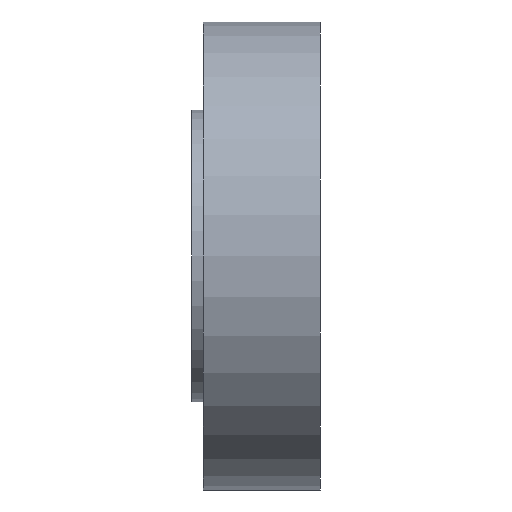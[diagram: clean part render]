
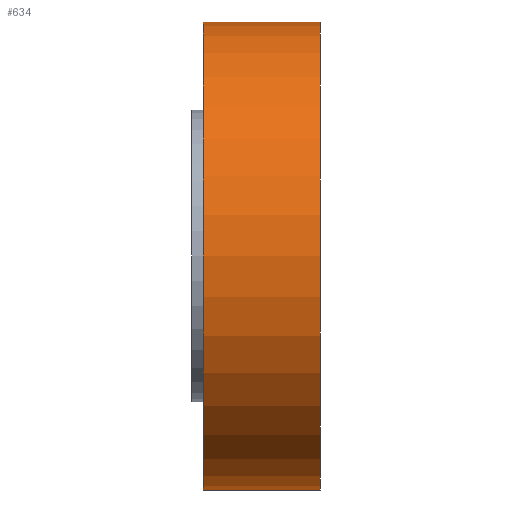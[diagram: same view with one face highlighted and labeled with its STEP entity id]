
A CAD part, front view. The second image highlights one B-rep face of the part: STEP entity #634.
In plain terms, the highlighted cylindrical face has radius 40 mm (diameter 80 mm), a partial arc.
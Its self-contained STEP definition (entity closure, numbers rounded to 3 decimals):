
#35 = CARTESIAN_POINT ( 'NONE',  ( 22., 0., 40. ) ) ;
#45 = LINE ( 'NONE', #234, #233 ) ;
#130 = AXIS2_PLACEMENT_3D ( 'NONE', #185, #184, #183 ) ;
#132 = DIRECTION ( 'NONE',  ( 0., 0., 1. ) ) ;
#133 = DIRECTION ( 'NONE',  ( -1., 0., 0. ) ) ;
#134 = CARTESIAN_POINT ( 'NONE',  ( 2., 0., 0. ) ) ;
#135 = CYLINDRICAL_SURFACE ( 'NONE', #130, 40. ) ;
#168 = CARTESIAN_POINT ( 'NONE',  ( 22., 0., -40. ) ) ;
#183 = DIRECTION ( 'NONE',  ( 0., 0., 1. ) ) ;
#184 = DIRECTION ( 'NONE',  ( -1., 0., 0. ) ) ;
#185 = CARTESIAN_POINT ( 'NONE',  ( 0., 0., 0. ) ) ;
#187 = CIRCLE ( 'NONE', #189, 40. ) ;
#189 = AXIS2_PLACEMENT_3D ( 'NONE', #134, #133, #132 ) ;
#194 = FACE_OUTER_BOUND ( 'NONE', #631, .T. ) ;
#232 = DIRECTION ( 'NONE',  ( -1., 0., 0. ) ) ;
#233 = VECTOR ( 'NONE', #232, 1000. ) ;
#234 = CARTESIAN_POINT ( 'NONE',  ( 0., 0., 40. ) ) ;
#518 = EDGE_CURVE ( 'NONE', #677, #519, #861, .T. ) ;
#519 = VERTEX_POINT ( 'NONE', #859 ) ;
#520 = VERTEX_POINT ( 'NONE', #852 ) ;
#558 = EDGE_CURVE ( 'NONE', #677, #676, #985, .T. ) ;
#607 = EDGE_CURVE ( 'NONE', #676, #520, #45, .T. ) ;
#631 = EDGE_LOOP ( 'NONE', ( #642, #645, #709, #632 ) ) ;
#632 = ORIENTED_EDGE ( 'NONE', *, *, #633, .F. ) ;
#633 = EDGE_CURVE ( 'NONE', #519, #520, #187, .T. ) ;
#634 = ADVANCED_FACE ( 'NONE', ( #194 ), #135, .T. ) ;
#642 = ORIENTED_EDGE ( 'NONE', *, *, #518, .F. ) ;
#645 = ORIENTED_EDGE ( 'NONE', *, *, #558, .T. ) ;
#676 = VERTEX_POINT ( 'NONE', #35 ) ;
#677 = VERTEX_POINT ( 'NONE', #168 ) ;
#709 = ORIENTED_EDGE ( 'NONE', *, *, #607, .T. ) ;
#817 = DIRECTION ( 'NONE',  ( 0., 0., 1. ) ) ;
#851 = VECTOR ( 'NONE', #853, 1000. ) ;
#852 = CARTESIAN_POINT ( 'NONE',  ( 2., 0., 40. ) ) ;
#853 = DIRECTION ( 'NONE',  ( -1., 0., 0. ) ) ;
#854 = CARTESIAN_POINT ( 'NONE',  ( 0., 0., -40. ) ) ;
#859 = CARTESIAN_POINT ( 'NONE',  ( 2., 0., -40. ) ) ;
#861 = LINE ( 'NONE', #854, #851 ) ;
#984 = DIRECTION ( 'NONE',  ( -1., 0., 0. ) ) ;
#985 = CIRCLE ( 'NONE', #990, 40. ) ;
#989 = CARTESIAN_POINT ( 'NONE',  ( 22., 0., 0. ) ) ;
#990 = AXIS2_PLACEMENT_3D ( 'NONE', #989, #984, #817 ) ;
